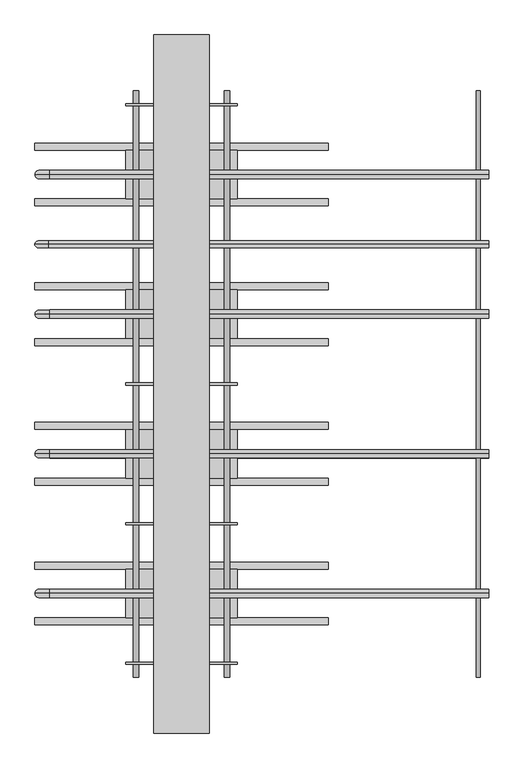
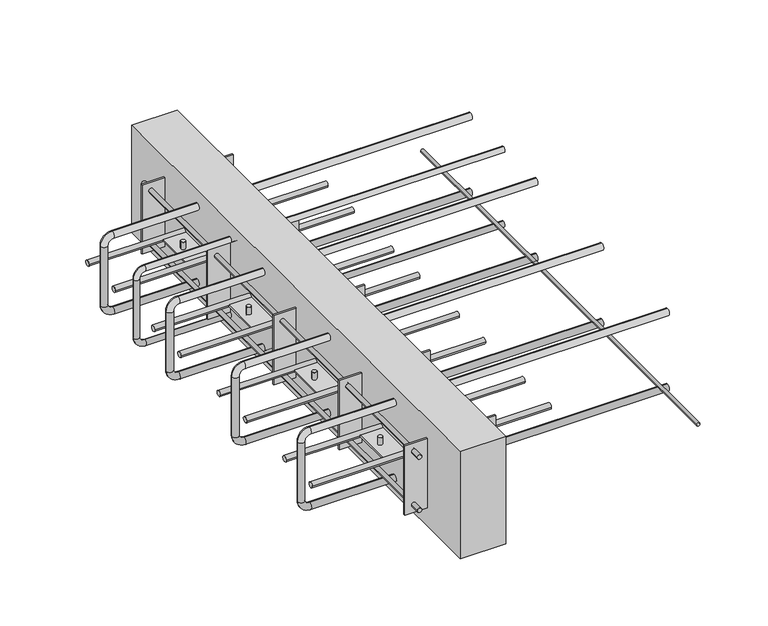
"""IFC4 building model written with IfcOpenShell, lengths in millimetres: proxy geometry, ACINOXplus_Typenreihe_Ux-Ox : UD+ S4."""

from ifc_helpers import new_model, si_unit, point, frame, frame_2d, origin, place, context, project, spatial, polyline, circle_curve, ellipse_curve, trimmed, segment, composite_curve, outline, extrude, source, transform, mapped, element, save
from ifc_brep_helpers import plane_surface, cylinder_surface, revolved_surface, advanced_brep


def generic_models_1c21d9c5(model_context):
    return source(origin(), model_context, "Body", "SolidModel", [
        advanced_brep(
        [(440.0, 100.0, -23.5), (440.0, 100.0, -35.5), (-189.0, 100.0, -23.5), (-189.0, 100.0, -35.5), (-198.0, 100.0, -44.5), (-210.0, 100.0, -44.5), (-210.0, 100.0, -155.5), (-198.0, 100.0, -155.5), (-189.0, 100.0, -164.5), (-189.0, 100.0, -176.5), (440.0, 100.0, -176.5), (440.0, 100.0, -164.5)],
        [
            (0, 1, circle_curve(frame((440.0, 100.0, -29.5), z_axis=(1.0, 0.0, 0.0), x_axis=(0.0, 0.0, -1.0)), 6.0)),
            (1, 0, circle_curve(frame((440.0, 100.0, -29.5), z_axis=(1.0, 0.0, 0.0), x_axis=(0.0, 0.0, -1.0)), 6.0)),
            (0, 2),
            (2, 3, circle_curve(frame((-189.0, 100.0, -29.5), z_axis=(1.0, 0.0, 0.0), x_axis=(0.0, 0.0, -1.0)), 6.0)),
            (3, 1),
            (3, 2, circle_curve(frame((-189.0, 100.0, -29.5), z_axis=(1.0, 0.0, 0.0), x_axis=(0.0, 0.0, -1.0)), 6.0)),
            (4, 3, circle_curve(frame((-189.0, 100.0, -44.5), z_axis=(0.0, 1.0, 0.0), x_axis=(0.0, 0.0, 1.0)), 9.0)),
            (2, 5, circle_curve(frame((-189.0, 100.0, -44.5), z_axis=(0.0, -1.0, 0.0), x_axis=(0.0, 0.0, 1.0)), 21.0)),
            (5, 4, circle_curve(frame((-204.0, 100.0, -44.5), z_axis=(0.0, 0.0, 1.0), x_axis=(1.0, 0.0, 0.0)), 6.0)),
            (4, 5, circle_curve(frame((-204.0, 100.0, -44.5), z_axis=(0.0, 0.0, 1.0), x_axis=(1.0, 0.0, 0.0)), 6.0)),
            (5, 6),
            (6, 7, circle_curve(frame((-204.0, 100.0, -155.5), z_axis=(0.0, 0.0, 1.0), x_axis=(1.0, 0.0, 0.0)), 6.0)),
            (7, 4),
            (7, 6, circle_curve(frame((-204.0, 100.0, -155.5), z_axis=(0.0, 0.0, 1.0), x_axis=(1.0, 0.0, 0.0)), 6.0)),
            (8, 7, circle_curve(frame((-189.0, 100.0, -155.5), z_axis=(0.0, 1.0, 0.0), x_axis=(-1.0, 0.0, 0.0)), 9.0)),
            (6, 9, circle_curve(frame((-189.0, 100.0, -155.5), z_axis=(0.0, -1.0, 0.0), x_axis=(-1.0, 0.0, 0.0)), 21.0)),
            (9, 8, circle_curve(frame((-189.0, 100.0, -170.5), z_axis=(-1.0, 0.0, 0.0), x_axis=(0.0, 0.0, 1.0)), 6.0)),
            (8, 9, circle_curve(frame((-189.0, 100.0, -170.5), z_axis=(-1.0, 0.0, 0.0), x_axis=(0.0, 0.0, 1.0)), 6.0)),
            (10, 11, circle_curve(frame((440.0, 100.0, -170.5), z_axis=(1.0, 0.0, 0.0), x_axis=(0.0, 0.0, 1.0)), 6.0)),
            (11, 10, circle_curve(frame((440.0, 100.0, -170.5), z_axis=(1.0, 0.0, 0.0), x_axis=(0.0, 0.0, 1.0)), 6.0)),
            (9, 10),
            (11, 8),
        ],
        [
            plane_surface(frame((440.0, 100.0, -29.5), z_axis=(1.0, 0.0, 0.0), x_axis=(0.0, -1.0, 0.0))),
            cylinder_surface(frame((440.0, 100.0, -29.5), z_axis=(1.0, 0.0, 0.0), x_axis=(0.0, 0.0, -1.0)), 6.0),
            revolved_surface(trimmed(ellipse_curve(frame((-189.0, 100.0, -29.5), z_axis=(1.0, 0.0, 0.0), x_axis=(0.0, 0.0, -1.0)), 6.0, 6.0), [point((-189.0, 100.0, -23.5))], [point((-189.0, 100.0, -35.5))], True, "CARTESIAN"), (-189.0, 100.0, -44.5), (0.0, -1.0, 0.0)),
            revolved_surface(trimmed(ellipse_curve(frame((-189.0, 100.0, -29.5), z_axis=(1.0, 0.0, 0.0), x_axis=(0.0, 0.0, -1.0)), 6.0, 6.0), [point((-189.0, 100.0, -35.5))], [point((-189.0, 100.0, -23.5))], True, "CARTESIAN"), (-189.0, 100.0, -44.5), (0.0, -1.0, 0.0)),
            cylinder_surface(frame((-204.0, 100.0, -44.5), z_axis=(0.0, 0.0, 1.0), x_axis=(1.0, 0.0, 0.0)), 6.0),
            revolved_surface(trimmed(ellipse_curve(frame((-204.0, 100.0, -155.5), z_axis=(0.0, 0.0, 1.0), x_axis=(1.0, 0.0, 0.0)), 6.0, 6.0), [point((-210.0, 100.0, -155.5))], [point((-198.0, 100.0, -155.5))], True, "CARTESIAN"), (-189.0, 100.0, -155.5), (0.0, -1.0, 0.0)),
            revolved_surface(trimmed(ellipse_curve(frame((-204.0, 100.0, -155.5), z_axis=(0.0, 0.0, 1.0), x_axis=(1.0, 0.0, 0.0)), 6.0, 6.0), [point((-198.0, 100.0, -155.5))], [point((-210.0, 100.0, -155.5))], True, "CARTESIAN"), (-189.0, 100.0, -155.5), (0.0, -1.0, 0.0)),
            plane_surface(frame((440.0, 100.0, -170.5), z_axis=(1.0, 0.0, 0.0), x_axis=(0.0, -1.0, 0.0))),
            cylinder_surface(frame((-189.0, 100.0, -170.5), z_axis=(-1.0, 0.0, 0.0), x_axis=(0.0, 0.0, 1.0)), 6.0),
        ],
        [
            (0, [[1, 2]]),
            (1, [[-1, 3, 4, 5]]),
            (1, [[-2, -5, 6, -3]]),
            (2, [[7, -4, 8, 9]]),
            (3, [[-8, -6, -7, 10]]),
            (4, [[-9, 11, 12, 13]]),
            (4, [[-10, -13, 14, -11]]),
            (5, [[15, -12, 16, 17]]),
            (6, [[-16, -14, -15, 18]]),
            (7, [[19, 20]]),
            (8, [[-17, 21, -20, 22]]),
            (8, [[-18, -22, -19, -21]]),
        ],
    ),
        advanced_brep(
        [(440.0, -100.0, -23.5), (440.0, -100.0, -35.5), (-189.0, -100.0, -23.5), (-189.0, -100.0, -35.5), (-198.0, -100.0, -44.5), (-210.0, -100.0, -44.5), (-210.0, -100.0, -155.5), (-198.0, -100.0, -155.5), (-189.0, -100.0, -164.5), (-189.0, -100.0, -176.5), (440.0, -100.0, -176.5), (440.0, -100.0, -164.5)],
        [
            (0, 1, circle_curve(frame((440.0, -100.0, -29.5), z_axis=(1.0, 0.0, 0.0), x_axis=(0.0, 0.0, -1.0)), 6.0)),
            (1, 0, circle_curve(frame((440.0, -100.0, -29.5), z_axis=(1.0, 0.0, 0.0), x_axis=(0.0, 0.0, -1.0)), 6.0)),
            (0, 2),
            (2, 3, circle_curve(frame((-189.0, -100.0, -29.5), z_axis=(1.0, 0.0, 0.0), x_axis=(0.0, 0.0, -1.0)), 6.0)),
            (3, 1),
            (3, 2, circle_curve(frame((-189.0, -100.0, -29.5), z_axis=(1.0, 0.0, 0.0), x_axis=(0.0, 0.0, -1.0)), 6.0)),
            (4, 3, circle_curve(frame((-189.0, -100.0, -44.5), z_axis=(0.0, 1.0, 0.0), x_axis=(0.0, 0.0, 1.0)), 9.0)),
            (2, 5, circle_curve(frame((-189.0, -100.0, -44.5), z_axis=(0.0, -1.0, 0.0), x_axis=(0.0, 0.0, 1.0)), 21.0)),
            (5, 4, circle_curve(frame((-204.0, -100.0, -44.5), z_axis=(0.0, 0.0, 1.0), x_axis=(1.0, 0.0, 0.0)), 6.0)),
            (4, 5, circle_curve(frame((-204.0, -100.0, -44.5), z_axis=(0.0, 0.0, 1.0), x_axis=(1.0, 0.0, 0.0)), 6.0)),
            (5, 6),
            (6, 7, circle_curve(frame((-204.0, -100.0, -155.5), z_axis=(0.0, 0.0, 1.0), x_axis=(1.0, 0.0, 0.0)), 6.0)),
            (7, 4),
            (7, 6, circle_curve(frame((-204.0, -100.0, -155.5), z_axis=(0.0, 0.0, 1.0), x_axis=(1.0, 0.0, 0.0)), 6.0)),
            (8, 7, circle_curve(frame((-189.0, -100.0, -155.5), z_axis=(0.0, 1.0, 0.0), x_axis=(-1.0, 0.0, 0.0)), 9.0)),
            (6, 9, circle_curve(frame((-189.0, -100.0, -155.5), z_axis=(0.0, -1.0, 0.0), x_axis=(-1.0, 0.0, 0.0)), 21.0)),
            (9, 8, circle_curve(frame((-189.0, -100.0, -170.5), z_axis=(-1.0, 0.0, 0.0), x_axis=(0.0, 0.0, 1.0)), 6.0)),
            (8, 9, circle_curve(frame((-189.0, -100.0, -170.5), z_axis=(-1.0, 0.0, 0.0), x_axis=(0.0, 0.0, 1.0)), 6.0)),
            (10, 11, circle_curve(frame((440.0, -100.0, -170.5), z_axis=(1.0, 0.0, 0.0), x_axis=(0.0, 0.0, 1.0)), 6.0)),
            (11, 10, circle_curve(frame((440.0, -100.0, -170.5), z_axis=(1.0, 0.0, 0.0), x_axis=(0.0, 0.0, 1.0)), 6.0)),
            (9, 10),
            (11, 8),
        ],
        [
            plane_surface(frame((440.0, -100.0, -29.5), z_axis=(1.0, 0.0, 0.0), x_axis=(0.0, -1.0, 0.0))),
            cylinder_surface(frame((440.0, -100.0, -29.5), z_axis=(1.0, 0.0, 0.0), x_axis=(0.0, 0.0, -1.0)), 6.0),
            revolved_surface(trimmed(ellipse_curve(frame((-189.0, -100.0, -29.5), z_axis=(1.0, 0.0, 0.0), x_axis=(0.0, 0.0, -1.0)), 6.0, 6.0), [point((-189.0, -100.0, -23.5))], [point((-189.0, -100.0, -35.5))], True, "CARTESIAN"), (-189.0, -100.0, -44.5), (0.0, -1.0, 0.0)),
            revolved_surface(trimmed(ellipse_curve(frame((-189.0, -100.0, -29.5), z_axis=(1.0, 0.0, 0.0), x_axis=(0.0, 0.0, -1.0)), 6.0, 6.0), [point((-189.0, -100.0, -35.5))], [point((-189.0, -100.0, -23.5))], True, "CARTESIAN"), (-189.0, -100.0, -44.5), (0.0, -1.0, 0.0)),
            cylinder_surface(frame((-204.0, -100.0, -44.5), z_axis=(0.0, 0.0, 1.0), x_axis=(1.0, 0.0, 0.0)), 6.0),
            revolved_surface(trimmed(ellipse_curve(frame((-204.0, -100.0, -155.5), z_axis=(0.0, 0.0, 1.0), x_axis=(1.0, 0.0, 0.0)), 6.0, 6.0), [point((-210.0, -100.0, -155.5))], [point((-198.0, -100.0, -155.5))], True, "CARTESIAN"), (-189.0, -100.0, -155.5), (0.0, -1.0, 0.0)),
            revolved_surface(trimmed(ellipse_curve(frame((-204.0, -100.0, -155.5), z_axis=(0.0, 0.0, 1.0), x_axis=(1.0, 0.0, 0.0)), 6.0, 6.0), [point((-198.0, -100.0, -155.5))], [point((-210.0, -100.0, -155.5))], True, "CARTESIAN"), (-189.0, -100.0, -155.5), (0.0, -1.0, 0.0)),
            plane_surface(frame((440.0, -100.0, -170.5), z_axis=(1.0, 0.0, 0.0), x_axis=(0.0, -1.0, 0.0))),
            cylinder_surface(frame((-189.0, -100.0, -170.5), z_axis=(-1.0, 0.0, 0.0), x_axis=(0.0, 0.0, 1.0)), 6.0),
        ],
        [
            (0, [[1, 2]]),
            (1, [[-1, 3, 4, 5]]),
            (1, [[-2, -5, 6, -3]]),
            (2, [[7, -4, 8, 9]]),
            (3, [[-8, -6, -7, 10]]),
            (4, [[-9, 11, 12, 13]]),
            (4, [[-10, -13, 14, -11]]),
            (5, [[15, -12, 16, 17]]),
            (6, [[-16, -14, -15, 18]]),
            (7, [[19, 20]]),
            (8, [[-17, 21, -20, 22]]),
            (8, [[-18, -22, -19, -21]]),
        ],
    ),
        advanced_brep(
        [(440.0, 300.0, -23.5), (440.0, 300.0, -35.5), (-189.0, 300.0, -23.5), (-189.0, 300.0, -35.5), (-198.0, 300.0, -44.5), (-210.0, 300.0, -44.5), (-210.0, 300.0, -155.5), (-198.0, 300.0, -155.5), (-189.0, 300.0, -164.5), (-189.0, 300.0, -176.5), (440.0, 300.0, -176.5), (440.0, 300.0, -164.5)],
        [
            (0, 1, circle_curve(frame((440.0, 300.0, -29.5), z_axis=(1.0, 0.0, 0.0), x_axis=(0.0, 0.0, -1.0)), 6.0)),
            (1, 0, circle_curve(frame((440.0, 300.0, -29.5), z_axis=(1.0, 0.0, 0.0), x_axis=(0.0, 0.0, -1.0)), 6.0)),
            (0, 2),
            (2, 3, circle_curve(frame((-189.0, 300.0, -29.5), z_axis=(1.0, 0.0, 0.0), x_axis=(0.0, 0.0, -1.0)), 6.0)),
            (3, 1),
            (3, 2, circle_curve(frame((-189.0, 300.0, -29.5), z_axis=(1.0, 0.0, 0.0), x_axis=(0.0, 0.0, -1.0)), 6.0)),
            (4, 3, circle_curve(frame((-189.0, 300.0, -44.5), z_axis=(0.0, 1.0, 0.0), x_axis=(0.0, 0.0, 1.0)), 9.0)),
            (2, 5, circle_curve(frame((-189.0, 300.0, -44.5), z_axis=(0.0, -1.0, 0.0), x_axis=(0.0, 0.0, 1.0)), 21.0)),
            (5, 4, circle_curve(frame((-204.0, 300.0, -44.5), z_axis=(0.0, 0.0, 1.0), x_axis=(1.0, 0.0, 0.0)), 6.0)),
            (4, 5, circle_curve(frame((-204.0, 300.0, -44.5), z_axis=(0.0, 0.0, 1.0), x_axis=(1.0, 0.0, 0.0)), 6.0)),
            (5, 6),
            (6, 7, circle_curve(frame((-204.0, 300.0, -155.5), z_axis=(0.0, 0.0, 1.0), x_axis=(1.0, 0.0, 0.0)), 6.0)),
            (7, 4),
            (7, 6, circle_curve(frame((-204.0, 300.0, -155.5), z_axis=(0.0, 0.0, 1.0), x_axis=(1.0, 0.0, 0.0)), 6.0)),
            (8, 7, circle_curve(frame((-189.0, 300.0, -155.5), z_axis=(0.0, 1.0, 0.0), x_axis=(-1.0, 0.0, 0.0)), 9.0)),
            (6, 9, circle_curve(frame((-189.0, 300.0, -155.5), z_axis=(0.0, -1.0, 0.0), x_axis=(-1.0, 0.0, 0.0)), 21.0)),
            (9, 8, circle_curve(frame((-189.0, 300.0, -170.5), z_axis=(-1.0, 0.0, 0.0), x_axis=(0.0, 0.0, 1.0)), 6.0)),
            (8, 9, circle_curve(frame((-189.0, 300.0, -170.5), z_axis=(-1.0, 0.0, 0.0), x_axis=(0.0, 0.0, 1.0)), 6.0)),
            (10, 11, circle_curve(frame((440.0, 300.0, -170.5), z_axis=(1.0, 0.0, 0.0), x_axis=(0.0, 0.0, 1.0)), 6.0)),
            (11, 10, circle_curve(frame((440.0, 300.0, -170.5), z_axis=(1.0, 0.0, 0.0), x_axis=(0.0, 0.0, 1.0)), 6.0)),
            (9, 10),
            (11, 8),
        ],
        [
            plane_surface(frame((440.0, 300.0, -29.5), z_axis=(1.0, 0.0, 0.0), x_axis=(0.0, -1.0, 0.0))),
            cylinder_surface(frame((440.0, 300.0, -29.5), z_axis=(1.0, 0.0, 0.0), x_axis=(0.0, 0.0, -1.0)), 6.0),
            revolved_surface(trimmed(ellipse_curve(frame((-189.0, 300.0, -29.5), z_axis=(1.0, 0.0, 0.0), x_axis=(0.0, 0.0, -1.0)), 6.0, 6.0), [point((-189.0, 300.0, -23.5))], [point((-189.0, 300.0, -35.5))], True, "CARTESIAN"), (-189.0, 300.0, -44.5), (0.0, -1.0, 0.0)),
            revolved_surface(trimmed(ellipse_curve(frame((-189.0, 300.0, -29.5), z_axis=(1.0, 0.0, 0.0), x_axis=(0.0, 0.0, -1.0)), 6.0, 6.0), [point((-189.0, 300.0, -35.5))], [point((-189.0, 300.0, -23.5))], True, "CARTESIAN"), (-189.0, 300.0, -44.5), (0.0, -1.0, 0.0)),
            cylinder_surface(frame((-204.0, 300.0, -44.5), z_axis=(0.0, 0.0, 1.0), x_axis=(1.0, 0.0, 0.0)), 6.0),
            revolved_surface(trimmed(ellipse_curve(frame((-204.0, 300.0, -155.5), z_axis=(0.0, 0.0, 1.0), x_axis=(1.0, 0.0, 0.0)), 6.0, 6.0), [point((-210.0, 300.0, -155.5))], [point((-198.0, 300.0, -155.5))], True, "CARTESIAN"), (-189.0, 300.0, -155.5), (0.0, -1.0, 0.0)),
            revolved_surface(trimmed(ellipse_curve(frame((-204.0, 300.0, -155.5), z_axis=(0.0, 0.0, 1.0), x_axis=(1.0, 0.0, 0.0)), 6.0, 6.0), [point((-198.0, 300.0, -155.5))], [point((-210.0, 300.0, -155.5))], True, "CARTESIAN"), (-189.0, 300.0, -155.5), (0.0, -1.0, 0.0)),
            plane_surface(frame((440.0, 300.0, -170.5), z_axis=(1.0, 0.0, 0.0), x_axis=(0.0, -1.0, 0.0))),
            cylinder_surface(frame((-189.0, 300.0, -170.5), z_axis=(-1.0, 0.0, 0.0), x_axis=(0.0, 0.0, 1.0)), 6.0),
        ],
        [
            (0, [[1, 2]]),
            (1, [[-1, 3, 4, 5]]),
            (1, [[-2, -5, 6, -3]]),
            (2, [[7, -4, 8, 9]]),
            (3, [[-8, -6, -7, 10]]),
            (4, [[-9, 11, 12, 13]]),
            (4, [[-10, -13, 14, -11]]),
            (5, [[15, -12, 16, 17]]),
            (6, [[-16, -14, -15, 18]]),
            (7, [[19, 20]]),
            (8, [[-17, 21, -20, 22]]),
            (8, [[-18, -22, -19, -21]]),
        ],
    ),
        advanced_brep(
        [(440.0, -300.0, -23.5), (440.0, -300.0, -35.5), (-189.0, -300.0, -23.5), (-189.0, -300.0, -35.5), (-198.0, -300.0, -44.5), (-210.0, -300.0, -44.5), (-210.0, -300.0, -155.5), (-198.0, -300.0, -155.5), (-189.0, -300.0, -164.5), (-189.0, -300.0, -176.5), (440.0, -300.0, -176.5), (440.0, -300.0, -164.5)],
        [
            (0, 1, circle_curve(frame((440.0, -300.0, -29.5), z_axis=(1.0, 0.0, 0.0), x_axis=(0.0, 0.0, -1.0)), 6.0)),
            (1, 0, circle_curve(frame((440.0, -300.0, -29.5), z_axis=(1.0, 0.0, 0.0), x_axis=(0.0, 0.0, -1.0)), 6.0)),
            (0, 2),
            (2, 3, circle_curve(frame((-189.0, -300.0, -29.5), z_axis=(1.0, 0.0, 0.0), x_axis=(0.0, 0.0, -1.0)), 6.0)),
            (3, 1),
            (3, 2, circle_curve(frame((-189.0, -300.0, -29.5), z_axis=(1.0, 0.0, 0.0), x_axis=(0.0, 0.0, -1.0)), 6.0)),
            (4, 3, circle_curve(frame((-189.0, -300.0, -44.5), z_axis=(0.0, 1.0, 0.0), x_axis=(0.0, 0.0, 1.0)), 9.0)),
            (2, 5, circle_curve(frame((-189.0, -300.0, -44.5), z_axis=(0.0, -1.0, 0.0), x_axis=(0.0, 0.0, 1.0)), 21.0)),
            (5, 4, circle_curve(frame((-204.0, -300.0, -44.5), z_axis=(0.0, 0.0, 1.0), x_axis=(1.0, 0.0, 0.0)), 6.0)),
            (4, 5, circle_curve(frame((-204.0, -300.0, -44.5), z_axis=(0.0, 0.0, 1.0), x_axis=(1.0, 0.0, 0.0)), 6.0)),
            (5, 6),
            (6, 7, circle_curve(frame((-204.0, -300.0, -155.5), z_axis=(0.0, 0.0, 1.0), x_axis=(1.0, 0.0, 0.0)), 6.0)),
            (7, 4),
            (7, 6, circle_curve(frame((-204.0, -300.0, -155.5), z_axis=(0.0, 0.0, 1.0), x_axis=(1.0, 0.0, 0.0)), 6.0)),
            (8, 7, circle_curve(frame((-189.0, -300.0, -155.5), z_axis=(0.0, 1.0, 0.0), x_axis=(-1.0, 0.0, 0.0)), 9.0)),
            (6, 9, circle_curve(frame((-189.0, -300.0, -155.5), z_axis=(0.0, -1.0, 0.0), x_axis=(-1.0, 0.0, 0.0)), 21.0)),
            (9, 8, circle_curve(frame((-189.0, -300.0, -170.5), z_axis=(-1.0, 0.0, 0.0), x_axis=(0.0, 0.0, 1.0)), 6.0)),
            (8, 9, circle_curve(frame((-189.0, -300.0, -170.5), z_axis=(-1.0, 0.0, 0.0), x_axis=(0.0, 0.0, 1.0)), 6.0)),
            (10, 11, circle_curve(frame((440.0, -300.0, -170.5), z_axis=(1.0, 0.0, 0.0), x_axis=(0.0, 0.0, 1.0)), 6.0)),
            (11, 10, circle_curve(frame((440.0, -300.0, -170.5), z_axis=(1.0, 0.0, 0.0), x_axis=(0.0, 0.0, 1.0)), 6.0)),
            (9, 10),
            (11, 8),
        ],
        [
            plane_surface(frame((440.0, -300.0, -29.5), z_axis=(1.0, 0.0, 0.0), x_axis=(0.0, -1.0, 0.0))),
            cylinder_surface(frame((440.0, -300.0, -29.5), z_axis=(1.0, 0.0, 0.0), x_axis=(0.0, 0.0, -1.0)), 6.0),
            revolved_surface(trimmed(ellipse_curve(frame((-189.0, -300.0, -29.5), z_axis=(1.0, 0.0, 0.0), x_axis=(0.0, 0.0, -1.0)), 6.0, 6.0), [point((-189.0, -300.0, -23.5))], [point((-189.0, -300.0, -35.5))], True, "CARTESIAN"), (-189.0, -300.0, -44.5), (0.0, -1.0, 0.0)),
            revolved_surface(trimmed(ellipse_curve(frame((-189.0, -300.0, -29.5), z_axis=(1.0, 0.0, 0.0), x_axis=(0.0, 0.0, -1.0)), 6.0, 6.0), [point((-189.0, -300.0, -35.5))], [point((-189.0, -300.0, -23.5))], True, "CARTESIAN"), (-189.0, -300.0, -44.5), (0.0, -1.0, 0.0)),
            cylinder_surface(frame((-204.0, -300.0, -44.5), z_axis=(0.0, 0.0, 1.0), x_axis=(1.0, 0.0, 0.0)), 6.0),
            revolved_surface(trimmed(ellipse_curve(frame((-204.0, -300.0, -155.5), z_axis=(0.0, 0.0, 1.0), x_axis=(1.0, 0.0, 0.0)), 6.0, 6.0), [point((-210.0, -300.0, -155.5))], [point((-198.0, -300.0, -155.5))], True, "CARTESIAN"), (-189.0, -300.0, -155.5), (0.0, -1.0, 0.0)),
            revolved_surface(trimmed(ellipse_curve(frame((-204.0, -300.0, -155.5), z_axis=(0.0, 0.0, 1.0), x_axis=(1.0, 0.0, 0.0)), 6.0, 6.0), [point((-198.0, -300.0, -155.5))], [point((-210.0, -300.0, -155.5))], True, "CARTESIAN"), (-189.0, -300.0, -155.5), (0.0, -1.0, 0.0)),
            plane_surface(frame((440.0, -300.0, -170.5), z_axis=(1.0, 0.0, 0.0), x_axis=(0.0, -1.0, 0.0))),
            cylinder_surface(frame((-189.0, -300.0, -170.5), z_axis=(-1.0, 0.0, 0.0), x_axis=(0.0, 0.0, 1.0)), 6.0),
        ],
        [
            (0, [[1, 2]]),
            (1, [[-1, 3, 4, 5]]),
            (1, [[-2, -5, 6, -3]]),
            (2, [[7, -4, 8, 9]]),
            (3, [[-8, -6, -7, 10]]),
            (4, [[-9, 11, 12, 13]]),
            (4, [[-10, -13, 14, -11]]),
            (5, [[15, -12, 16, 17]]),
            (6, [[-16, -14, -15, 18]]),
            (7, [[19, 20]]),
            (8, [[-17, 21, -20, 22]]),
            (8, [[-18, -22, -19, -21]]),
        ],
    ),
        extrude(outline(composite_curve([segment(trimmed(circle_curve(frame_2d((-161.5, 425.0)), 3.0), [point((-161.5, 428.0))], [point((-161.5, 422.0))], False, "CARTESIAN"), True, "CONTINUOUS"), segment(trimmed(circle_curve(frame_2d((-161.5, 425.0)), 3.0), [point((-161.5, 422.0))], [point((-161.5, 428.0))], False, "CARTESIAN"), True, "CONTINUOUS")], self_intersect=False)), frame((0.0, -420.0, 0.0), z_axis=(0.0, 1.0, 0.0), x_axis=(0.0, 0.0, 1.0)), (0.0, 0.0, 1.0), 840.0),
        extrude(outline(composite_curve([segment(trimmed(circle_curve(frame_2d((-340.0, -100.0)), 5.0), [point((-345.0, -100.0))], [point((-335.0, -100.0))], False, "CARTESIAN"), True, "CONTINUOUS"), segment(trimmed(circle_curve(frame_2d((-340.0, -100.0)), 5.0), [point((-335.0, -100.0))], [point((-345.0, -100.0))], False, "CARTESIAN"), True, "CONTINUOUS")], self_intersect=False)), frame((-210.0, 0.0, 0.0), z_axis=(1.0, 0.0, 0.0), x_axis=(0.0, 1.0, 0.0)), (0.0, 0.0, 1.0), 420.0),
        extrude(outline(composite_curve([segment(trimmed(circle_curve(frame_2d((-260.0, -100.0)), 5.0), [point((-265.0, -100.0))], [point((-255.0, -100.0))], False, "CARTESIAN"), True, "CONTINUOUS"), segment(trimmed(circle_curve(frame_2d((-260.0, -100.0)), 5.0), [point((-255.0, -100.0))], [point((-265.0, -100.0))], False, "CARTESIAN"), True, "CONTINUOUS")], self_intersect=False)), frame((-210.0, 0.0, 0.0), z_axis=(1.0, 0.0, 0.0), x_axis=(0.0, 1.0, 0.0)), (0.0, 0.0, 1.0), 420.0),
        extrude(outline(composite_curve([segment(trimmed(circle_curve(frame_2d((-65.0, -300.0)), 4.0), [point((-69.0, -300.0))], [point((-61.0, -300.0))], False, "CARTESIAN"), True, "CONTINUOUS"), segment(trimmed(circle_curve(frame_2d((-65.0, -300.0)), 4.0), [point((-61.0, -300.0))], [point((-69.0, -300.0))], False, "CARTESIAN"), True, "CONTINUOUS")], self_intersect=False)), frame((0.0, 0.0, -115.0), z_axis=(0.0, 0.0, 1.0), x_axis=(1.0, 0.0, 0.0)), (0.0, 0.0, 1.0), 13.5),
        extrude(outline(composite_curve([segment(trimmed(circle_curve(frame_2d((65.0, -300.0)), 4.0), [point((61.0, -300.0))], [point((69.0, -300.0))], False, "CARTESIAN"), True, "CONTINUOUS"), segment(trimmed(circle_curve(frame_2d((65.0, -300.0)), 4.0), [point((69.0, -300.0))], [point((61.0, -300.0))], False, "CARTESIAN"), True, "CONTINUOUS")], self_intersect=False)), frame((0.0, 0.0, -115.0), z_axis=(0.0, 0.0, 1.0), x_axis=(1.0, 0.0, 0.0)), (0.0, 0.0, 1.0), 13.5),
        extrude(outline(composite_curve([segment(trimmed(circle_curve(frame_2d((-65.0, -300.0)), 4.0), [point((-61.0, -300.0))], [point((-69.0, -300.0))], False, "CARTESIAN"), True, "CONTINUOUS"), segment(trimmed(circle_curve(frame_2d((-65.0, -300.0)), 4.0), [point((-69.0, -300.0))], [point((-61.0, -300.0))], False, "CARTESIAN"), True, "CONTINUOUS")], self_intersect=False)), frame((0.0, 0.0, -98.5), z_axis=(0.0, 0.0, 1.0), x_axis=(1.0, 0.0, 0.0)), (0.0, 0.0, 1.0), 13.5),
        extrude(outline(composite_curve([segment(trimmed(circle_curve(frame_2d((65.0, -300.0)), 4.0), [point((69.0, -300.0))], [point((61.0, -300.0))], False, "CARTESIAN"), True, "CONTINUOUS"), segment(trimmed(circle_curve(frame_2d((65.0, -300.0)), 4.0), [point((61.0, -300.0))], [point((69.0, -300.0))], False, "CARTESIAN"), True, "CONTINUOUS")], self_intersect=False)), frame((0.0, 0.0, -98.5), z_axis=(0.0, 0.0, 1.0), x_axis=(1.0, 0.0, 0.0)), (0.0, 0.0, 1.0), 13.5),
        extrude(outline(polyline([(80.0, -265.0), (80.0, -335.0), (-80.0, -335.0), (-80.0, -265.0), (80.0, -265.0)])), frame((0.0, 0.0, -101.5), z_axis=(0.0, 0.0, 1.0), x_axis=(1.0, 0.0, 0.0)), (0.0, 0.0, 1.0), 3.0),
        extrude(outline(composite_curve([segment(trimmed(circle_curve(frame_2d((260.0, -100.0)), 5.0), [point((255.0, -100.0))], [point((265.0, -100.0))], False, "CARTESIAN"), True, "CONTINUOUS"), segment(trimmed(circle_curve(frame_2d((260.0, -100.0)), 5.0), [point((265.0, -100.0))], [point((255.0, -100.0))], False, "CARTESIAN"), True, "CONTINUOUS")], self_intersect=False)), frame((-210.0, 0.0, 0.0), z_axis=(1.0, 0.0, 0.0), x_axis=(0.0, 1.0, 0.0)), (0.0, 0.0, 1.0), 420.0),
        extrude(outline(composite_curve([segment(trimmed(circle_curve(frame_2d((340.0, -100.0)), 5.0), [point((335.0, -100.0))], [point((345.0, -100.0))], False, "CARTESIAN"), True, "CONTINUOUS"), segment(trimmed(circle_curve(frame_2d((340.0, -100.0)), 5.0), [point((345.0, -100.0))], [point((335.0, -100.0))], False, "CARTESIAN"), True, "CONTINUOUS")], self_intersect=False)), frame((-210.0, 0.0, 0.0), z_axis=(1.0, 0.0, 0.0), x_axis=(0.0, 1.0, 0.0)), (0.0, 0.0, 1.0), 420.0),
        extrude(outline(composite_curve([segment(trimmed(circle_curve(frame_2d((-65.0, 300.0)), 4.0), [point((-69.0, 300.0))], [point((-61.0, 300.0))], False, "CARTESIAN"), True, "CONTINUOUS"), segment(trimmed(circle_curve(frame_2d((-65.0, 300.0)), 4.0), [point((-61.0, 300.0))], [point((-69.0, 300.0))], False, "CARTESIAN"), True, "CONTINUOUS")], self_intersect=False)), frame((0.0, 0.0, -115.0), z_axis=(0.0, 0.0, 1.0), x_axis=(1.0, 0.0, 0.0)), (0.0, 0.0, 1.0), 13.5),
        extrude(outline(composite_curve([segment(trimmed(circle_curve(frame_2d((65.0, 300.0)), 4.0), [point((61.0, 300.0))], [point((69.0, 300.0))], False, "CARTESIAN"), True, "CONTINUOUS"), segment(trimmed(circle_curve(frame_2d((65.0, 300.0)), 4.0), [point((69.0, 300.0))], [point((61.0, 300.0))], False, "CARTESIAN"), True, "CONTINUOUS")], self_intersect=False)), frame((0.0, 0.0, -115.0), z_axis=(0.0, 0.0, 1.0), x_axis=(1.0, 0.0, 0.0)), (0.0, 0.0, 1.0), 13.5),
        extrude(outline(composite_curve([segment(trimmed(circle_curve(frame_2d((-65.0, 300.0)), 4.0), [point((-61.0, 300.0))], [point((-69.0, 300.0))], False, "CARTESIAN"), True, "CONTINUOUS"), segment(trimmed(circle_curve(frame_2d((-65.0, 300.0)), 4.0), [point((-69.0, 300.0))], [point((-61.0, 300.0))], False, "CARTESIAN"), True, "CONTINUOUS")], self_intersect=False)), frame((0.0, 0.0, -98.5), z_axis=(0.0, 0.0, 1.0), x_axis=(1.0, 0.0, 0.0)), (0.0, 0.0, 1.0), 13.5),
        extrude(outline(composite_curve([segment(trimmed(circle_curve(frame_2d((65.0, 300.0)), 4.0), [point((69.0, 300.0))], [point((61.0, 300.0))], False, "CARTESIAN"), True, "CONTINUOUS"), segment(trimmed(circle_curve(frame_2d((65.0, 300.0)), 4.0), [point((61.0, 300.0))], [point((69.0, 300.0))], False, "CARTESIAN"), True, "CONTINUOUS")], self_intersect=False)), frame((0.0, 0.0, -98.5), z_axis=(0.0, 0.0, 1.0), x_axis=(1.0, 0.0, 0.0)), (0.0, 0.0, 1.0), 13.5),
        extrude(outline(polyline([(80.0, 335.0), (80.0, 265.0), (-80.0, 265.0), (-80.0, 335.0), (80.0, 335.0)])), frame((0.0, 0.0, -101.5), z_axis=(0.0, 0.0, 1.0), x_axis=(1.0, 0.0, 0.0)), (0.0, 0.0, 1.0), 3.0),
        extrude(outline(composite_curve([segment(trimmed(circle_curve(frame_2d((-140.0, -100.0)), 5.0), [point((-145.0, -100.0))], [point((-135.0, -100.0))], False, "CARTESIAN"), True, "CONTINUOUS"), segment(trimmed(circle_curve(frame_2d((-140.0, -100.0)), 5.0), [point((-135.0, -100.0))], [point((-145.0, -100.0))], False, "CARTESIAN"), True, "CONTINUOUS")], self_intersect=False)), frame((-210.0, 0.0, 0.0), z_axis=(1.0, 0.0, 0.0), x_axis=(0.0, 1.0, 0.0)), (0.0, 0.0, 1.0), 420.0),
        extrude(outline(composite_curve([segment(trimmed(circle_curve(frame_2d((-60.0, -100.0)), 5.0), [point((-65.0, -100.0))], [point((-55.0, -100.0))], False, "CARTESIAN"), True, "CONTINUOUS"), segment(trimmed(circle_curve(frame_2d((-60.0, -100.0)), 5.0), [point((-55.0, -100.0))], [point((-65.0, -100.0))], False, "CARTESIAN"), True, "CONTINUOUS")], self_intersect=False)), frame((-210.0, 0.0, 0.0), z_axis=(1.0, 0.0, 0.0), x_axis=(0.0, 1.0, 0.0)), (0.0, 0.0, 1.0), 420.0),
        extrude(outline(composite_curve([segment(trimmed(circle_curve(frame_2d((-65.0, -100.0)), 4.0), [point((-69.0, -100.0))], [point((-61.0, -100.0))], False, "CARTESIAN"), True, "CONTINUOUS"), segment(trimmed(circle_curve(frame_2d((-65.0, -100.0)), 4.0), [point((-61.0, -100.0))], [point((-69.0, -100.0))], False, "CARTESIAN"), True, "CONTINUOUS")], self_intersect=False)), frame((0.0, 0.0, -115.0), z_axis=(0.0, 0.0, 1.0), x_axis=(1.0, 0.0, 0.0)), (0.0, 0.0, 1.0), 13.5),
        extrude(outline(composite_curve([segment(trimmed(circle_curve(frame_2d((65.0, -100.0)), 4.0), [point((61.0, -100.0))], [point((69.0, -100.0))], False, "CARTESIAN"), True, "CONTINUOUS"), segment(trimmed(circle_curve(frame_2d((65.0, -100.0)), 4.0), [point((69.0, -100.0))], [point((61.0, -100.0))], False, "CARTESIAN"), True, "CONTINUOUS")], self_intersect=False)), frame((0.0, 0.0, -115.0), z_axis=(0.0, 0.0, 1.0), x_axis=(1.0, 0.0, 0.0)), (0.0, 0.0, 1.0), 13.5),
        extrude(outline(composite_curve([segment(trimmed(circle_curve(frame_2d((-65.0, -100.0)), 4.0), [point((-61.0, -100.0))], [point((-69.0, -100.0))], False, "CARTESIAN"), True, "CONTINUOUS"), segment(trimmed(circle_curve(frame_2d((-65.0, -100.0)), 4.0), [point((-69.0, -100.0))], [point((-61.0, -100.0))], False, "CARTESIAN"), True, "CONTINUOUS")], self_intersect=False)), frame((0.0, 0.0, -98.5), z_axis=(0.0, 0.0, 1.0), x_axis=(1.0, 0.0, 0.0)), (0.0, 0.0, 1.0), 13.5),
        extrude(outline(composite_curve([segment(trimmed(circle_curve(frame_2d((65.0, -100.0)), 4.0), [point((69.0, -100.0))], [point((61.0, -100.0))], False, "CARTESIAN"), True, "CONTINUOUS"), segment(trimmed(circle_curve(frame_2d((65.0, -100.0)), 4.0), [point((61.0, -100.0))], [point((69.0, -100.0))], False, "CARTESIAN"), True, "CONTINUOUS")], self_intersect=False)), frame((0.0, 0.0, -98.5), z_axis=(0.0, 0.0, 1.0), x_axis=(1.0, 0.0, 0.0)), (0.0, 0.0, 1.0), 13.5),
        extrude(outline(polyline([(80.0, -65.0), (80.0, -135.0), (-80.0, -135.0), (-80.0, -65.0), (80.0, -65.0)])), frame((0.0, 0.0, -101.5), z_axis=(0.0, 0.0, 1.0), x_axis=(1.0, 0.0, 0.0)), (0.0, 0.0, 1.0), 3.0),
        extrude(outline(composite_curve([segment(trimmed(circle_curve(frame_2d((60.0, -100.0)), 5.0), [point((55.0, -100.0))], [point((65.0, -100.0))], False, "CARTESIAN"), True, "CONTINUOUS"), segment(trimmed(circle_curve(frame_2d((60.0, -100.0)), 5.0), [point((65.0, -100.0))], [point((55.0, -100.0))], False, "CARTESIAN"), True, "CONTINUOUS")], self_intersect=False)), frame((-210.0, 0.0, 0.0), z_axis=(1.0, 0.0, 0.0), x_axis=(0.0, 1.0, 0.0)), (0.0, 0.0, 1.0), 420.0),
        extrude(outline(composite_curve([segment(trimmed(circle_curve(frame_2d((140.0, -100.0)), 5.0), [point((135.0, -100.0))], [point((145.0, -100.0))], False, "CARTESIAN"), True, "CONTINUOUS"), segment(trimmed(circle_curve(frame_2d((140.0, -100.0)), 5.0), [point((145.0, -100.0))], [point((135.0, -100.0))], False, "CARTESIAN"), True, "CONTINUOUS")], self_intersect=False)), frame((-210.0, 0.0, 0.0), z_axis=(1.0, 0.0, 0.0), x_axis=(0.0, 1.0, 0.0)), (0.0, 0.0, 1.0), 420.0),
        extrude(outline(composite_curve([segment(trimmed(circle_curve(frame_2d((-65.0, 100.0)), 4.0), [point((-69.0, 100.0))], [point((-61.0, 100.0))], False, "CARTESIAN"), True, "CONTINUOUS"), segment(trimmed(circle_curve(frame_2d((-65.0, 100.0)), 4.0), [point((-61.0, 100.0))], [point((-69.0, 100.0))], False, "CARTESIAN"), True, "CONTINUOUS")], self_intersect=False)), frame((0.0, 0.0, -115.0), z_axis=(0.0, 0.0, 1.0), x_axis=(1.0, 0.0, 0.0)), (0.0, 0.0, 1.0), 13.5),
        extrude(outline(composite_curve([segment(trimmed(circle_curve(frame_2d((65.0, 100.0)), 4.0), [point((61.0, 100.0))], [point((69.0, 100.0))], False, "CARTESIAN"), True, "CONTINUOUS"), segment(trimmed(circle_curve(frame_2d((65.0, 100.0)), 4.0), [point((69.0, 100.0))], [point((61.0, 100.0))], False, "CARTESIAN"), True, "CONTINUOUS")], self_intersect=False)), frame((0.0, 0.0, -115.0), z_axis=(0.0, 0.0, 1.0), x_axis=(1.0, 0.0, 0.0)), (0.0, 0.0, 1.0), 13.5),
        extrude(outline(composite_curve([segment(trimmed(circle_curve(frame_2d((-65.0, 100.0)), 4.0), [point((-61.0, 100.0))], [point((-69.0, 100.0))], False, "CARTESIAN"), True, "CONTINUOUS"), segment(trimmed(circle_curve(frame_2d((-65.0, 100.0)), 4.0), [point((-69.0, 100.0))], [point((-61.0, 100.0))], False, "CARTESIAN"), True, "CONTINUOUS")], self_intersect=False)), frame((0.0, 0.0, -98.5), z_axis=(0.0, 0.0, 1.0), x_axis=(1.0, 0.0, 0.0)), (0.0, 0.0, 1.0), 13.5),
        extrude(outline(composite_curve([segment(trimmed(circle_curve(frame_2d((65.0, 100.0)), 4.0), [point((69.0, 100.0))], [point((61.0, 100.0))], False, "CARTESIAN"), True, "CONTINUOUS"), segment(trimmed(circle_curve(frame_2d((65.0, 100.0)), 4.0), [point((61.0, 100.0))], [point((69.0, 100.0))], False, "CARTESIAN"), True, "CONTINUOUS")], self_intersect=False)), frame((0.0, 0.0, -98.5), z_axis=(0.0, 0.0, 1.0), x_axis=(1.0, 0.0, 0.0)), (0.0, 0.0, 1.0), 13.5),
        extrude(outline(polyline([(80.0, 135.0), (80.0, 65.0), (-80.0, 65.0), (-80.0, 135.0), (80.0, 135.0)])), frame((0.0, 0.0, -101.5), z_axis=(0.0, 0.0, 1.0), x_axis=(1.0, 0.0, 0.0)), (0.0, 0.0, 1.0), 3.0),
        extrude(outline(polyline([(40.0, 500.0), (40.0, -500.0), (-40.0, -500.0), (-40.0, 500.0), (40.0, 500.0)])), frame((0.0, 0.0, -200.0), z_axis=(0.0, 0.0, 1.0), x_axis=(1.0, 0.0, 0.0)), (0.0, 0.0, 1.0), 200.0),
        extrude(outline(polyline([(80.0, -198.5), (80.0, -201.5), (-80.0, -201.5), (-80.0, -198.5), (80.0, -198.5)])), frame((0.0, 0.0, -164.5), z_axis=(0.0, 0.0, 1.0), x_axis=(1.0, 0.0, 0.0)), (0.0, 0.0, 1.0), 129.0),
        extrude(outline(polyline([(80.0, 1.5), (80.0, -1.5), (-80.0, -1.5), (-80.0, 1.5), (80.0, 1.5)])), frame((0.0, 0.0, -164.5), z_axis=(0.0, 0.0, 1.0), x_axis=(1.0, 0.0, 0.0)), (0.0, 0.0, 1.0), 129.0),
        extrude(outline(polyline([(80.0, 201.5), (80.0, 198.5), (-80.0, 198.5), (-80.0, 201.5), (80.0, 201.5)])), frame((0.0, 0.0, -164.5), z_axis=(0.0, 0.0, 1.0), x_axis=(1.0, 0.0, 0.0)), (0.0, 0.0, 1.0), 129.0),
        extrude(outline(polyline([(80.0, -398.5), (80.0, -401.5), (-80.0, -401.5), (-80.0, -398.5), (80.0, -398.5)])), frame((0.0, 0.0, -164.5), z_axis=(0.0, 0.0, 1.0), x_axis=(1.0, 0.0, 0.0)), (0.0, 0.0, 1.0), 129.0),
        extrude(outline(polyline([(80.0, 401.5), (80.0, 398.5), (-80.0, 398.5), (-80.0, 401.5), (80.0, 401.5)])), frame((0.0, 0.0, -164.5), z_axis=(0.0, 0.0, 1.0), x_axis=(1.0, 0.0, 0.0)), (0.0, 0.0, 1.0), 129.0),
        extrude(outline(composite_curve([segment(trimmed(circle_curve(frame_2d((-149.5, -65.0)), 4.0), [point((-149.5, -61.0))], [point((-149.5, -69.0))], False, "CARTESIAN"), True, "CONTINUOUS"), segment(trimmed(circle_curve(frame_2d((-149.5, -65.0)), 4.0), [point((-149.5, -69.0))], [point((-149.5, -61.0))], False, "CARTESIAN"), True, "CONTINUOUS")], self_intersect=False)), frame((0.0, -420.0, 0.0), z_axis=(0.0, 1.0, 0.0), x_axis=(0.0, 0.0, 1.0)), (0.0, 0.0, 1.0), 18.5),
        extrude(outline(composite_curve([segment(trimmed(circle_curve(frame_2d((-149.5, -65.0)), 4.0), [point((-149.5, -69.0))], [point((-149.5, -61.0))], False, "CARTESIAN"), True, "CONTINUOUS"), segment(trimmed(circle_curve(frame_2d((-149.5, -65.0)), 4.0), [point((-149.5, -61.0))], [point((-149.5, -69.0))], False, "CARTESIAN"), True, "CONTINUOUS")], self_intersect=False)), frame((0.0, -398.5, 0.0), z_axis=(0.0, 1.0, 0.0), x_axis=(0.0, 0.0, 1.0)), (0.0, 0.0, 1.0), 597.0),
        extrude(outline(composite_curve([segment(trimmed(circle_curve(frame_2d((-149.5, -65.0)), 4.0), [point((-149.5, -69.0))], [point((-149.5, -61.0))], False, "CARTESIAN"), True, "CONTINUOUS"), segment(trimmed(circle_curve(frame_2d((-149.5, -65.0)), 4.0), [point((-149.5, -61.0))], [point((-149.5, -69.0))], False, "CARTESIAN"), True, "CONTINUOUS")], self_intersect=False)), frame((0.0, 401.5, 0.0), z_axis=(0.0, 1.0, 0.0), x_axis=(0.0, 0.0, 1.0)), (0.0, 0.0, 1.0), 18.5),
        extrude(outline(composite_curve([segment(trimmed(circle_curve(frame_2d((-149.5, -65.0)), 4.0), [point((-149.5, -69.0))], [point((-149.5, -61.0))], False, "CARTESIAN"), True, "CONTINUOUS"), segment(trimmed(circle_curve(frame_2d((-149.5, -65.0)), 4.0), [point((-149.5, -61.0))], [point((-149.5, -69.0))], False, "CARTESIAN"), True, "CONTINUOUS")], self_intersect=False)), frame((0.0, 201.5, 0.0), z_axis=(0.0, 1.0, 0.0), x_axis=(0.0, 0.0, 1.0)), (0.0, 0.0, 1.0), 197.0),
        extrude(outline(composite_curve([segment(trimmed(circle_curve(frame_2d((-149.5, 65.0)), 4.0), [point((-149.5, 69.0))], [point((-149.5, 61.0))], False, "CARTESIAN"), True, "CONTINUOUS"), segment(trimmed(circle_curve(frame_2d((-149.5, 65.0)), 4.0), [point((-149.5, 61.0))], [point((-149.5, 69.0))], False, "CARTESIAN"), True, "CONTINUOUS")], self_intersect=False)), frame((0.0, -420.0, 0.0), z_axis=(0.0, 1.0, 0.0), x_axis=(0.0, 0.0, 1.0)), (0.0, 0.0, 1.0), 18.5),
        extrude(outline(composite_curve([segment(trimmed(circle_curve(frame_2d((-149.5, 65.0)), 4.0), [point((-149.5, 61.0))], [point((-149.5, 69.0))], False, "CARTESIAN"), True, "CONTINUOUS"), segment(trimmed(circle_curve(frame_2d((-149.5, 65.0)), 4.0), [point((-149.5, 69.0))], [point((-149.5, 61.0))], False, "CARTESIAN"), True, "CONTINUOUS")], self_intersect=False)), frame((0.0, -398.5, 0.0), z_axis=(0.0, 1.0, 0.0), x_axis=(0.0, 0.0, 1.0)), (0.0, 0.0, 1.0), 597.0),
        extrude(outline(composite_curve([segment(trimmed(circle_curve(frame_2d((-149.5, 65.0)), 4.0), [point((-149.5, 61.0))], [point((-149.5, 69.0))], False, "CARTESIAN"), True, "CONTINUOUS"), segment(trimmed(circle_curve(frame_2d((-149.5, 65.0)), 4.0), [point((-149.5, 69.0))], [point((-149.5, 61.0))], False, "CARTESIAN"), True, "CONTINUOUS")], self_intersect=False)), frame((0.0, 401.5, 0.0), z_axis=(0.0, 1.0, 0.0), x_axis=(0.0, 0.0, 1.0)), (0.0, 0.0, 1.0), 18.5),
        extrude(outline(composite_curve([segment(trimmed(circle_curve(frame_2d((-149.5, 65.0)), 4.0), [point((-149.5, 61.0))], [point((-149.5, 69.0))], False, "CARTESIAN"), True, "CONTINUOUS"), segment(trimmed(circle_curve(frame_2d((-149.5, 65.0)), 4.0), [point((-149.5, 69.0))], [point((-149.5, 61.0))], False, "CARTESIAN"), True, "CONTINUOUS")], self_intersect=False)), frame((0.0, 201.5, 0.0), z_axis=(0.0, 1.0, 0.0), x_axis=(0.0, 0.0, 1.0)), (0.0, 0.0, 1.0), 197.0),
        extrude(outline(composite_curve([segment(trimmed(circle_curve(frame_2d((-50.5, -65.0)), 4.0), [point((-50.5, -69.0))], [point((-50.5, -61.0))], False, "CARTESIAN"), True, "CONTINUOUS"), segment(trimmed(circle_curve(frame_2d((-50.5, -65.0)), 4.0), [point((-50.5, -61.0))], [point((-50.5, -69.0))], False, "CARTESIAN"), True, "CONTINUOUS")], self_intersect=False)), frame((0.0, 401.5, 0.0), z_axis=(0.0, 1.0, 0.0), x_axis=(0.0, 0.0, 1.0)), (0.0, 0.0, 1.0), 18.5),
        extrude(outline(composite_curve([segment(trimmed(circle_curve(frame_2d((-50.5, -65.0)), 4.0), [point((-50.5, -61.0))], [point((-50.5, -69.0))], False, "CARTESIAN"), True, "CONTINUOUS"), segment(trimmed(circle_curve(frame_2d((-50.5, -65.0)), 4.0), [point((-50.5, -69.0))], [point((-50.5, -61.0))], False, "CARTESIAN"), True, "CONTINUOUS")], self_intersect=False)), frame((0.0, -420.0, 0.0), z_axis=(0.0, 1.0, 0.0), x_axis=(0.0, 0.0, 1.0)), (0.0, 0.0, 1.0), 18.5),
        extrude(outline(composite_curve([segment(trimmed(circle_curve(frame_2d((-50.5, -65.0)), 4.0), [point((-50.5, -69.0))], [point((-50.5, -61.0))], False, "CARTESIAN"), True, "CONTINUOUS"), segment(trimmed(circle_curve(frame_2d((-50.5, -65.0)), 4.0), [point((-50.5, -61.0))], [point((-50.5, -69.0))], False, "CARTESIAN"), True, "CONTINUOUS")], self_intersect=False)), frame((0.0, -398.5, 0.0), z_axis=(0.0, 1.0, 0.0), x_axis=(0.0, 0.0, 1.0)), (0.0, 0.0, 1.0), 597.0),
        extrude(outline(composite_curve([segment(trimmed(circle_curve(frame_2d((-50.5, -65.0)), 4.0), [point((-50.5, -69.0))], [point((-50.5, -61.0))], False, "CARTESIAN"), True, "CONTINUOUS"), segment(trimmed(circle_curve(frame_2d((-50.5, -65.0)), 4.0), [point((-50.5, -61.0))], [point((-50.5, -69.0))], False, "CARTESIAN"), True, "CONTINUOUS")], self_intersect=False)), frame((0.0, 201.5, 0.0), z_axis=(0.0, 1.0, 0.0), x_axis=(0.0, 0.0, 1.0)), (0.0, 0.0, 1.0), 197.0),
        extrude(outline(composite_curve([segment(trimmed(circle_curve(frame_2d((-50.5, 65.0)), 4.0), [point((-50.5, 61.0))], [point((-50.5, 69.0))], False, "CARTESIAN"), True, "CONTINUOUS"), segment(trimmed(circle_curve(frame_2d((-50.5, 65.0)), 4.0), [point((-50.5, 69.0))], [point((-50.5, 61.0))], False, "CARTESIAN"), True, "CONTINUOUS")], self_intersect=False)), frame((0.0, 401.5, 0.0), z_axis=(0.0, 1.0, 0.0), x_axis=(0.0, 0.0, 1.0)), (0.0, 0.0, 1.0), 18.5),
        extrude(outline(composite_curve([segment(trimmed(circle_curve(frame_2d((-50.5, 65.0)), 4.0), [point((-50.5, 69.0))], [point((-50.5, 61.0))], False, "CARTESIAN"), True, "CONTINUOUS"), segment(trimmed(circle_curve(frame_2d((-50.5, 65.0)), 4.0), [point((-50.5, 61.0))], [point((-50.5, 69.0))], False, "CARTESIAN"), True, "CONTINUOUS")], self_intersect=False)), frame((0.0, -420.0, 0.0), z_axis=(0.0, 1.0, 0.0), x_axis=(0.0, 0.0, 1.0)), (0.0, 0.0, 1.0), 18.5),
        extrude(outline(composite_curve([segment(trimmed(circle_curve(frame_2d((-50.5, 65.0)), 4.0), [point((-50.5, 61.0))], [point((-50.5, 69.0))], False, "CARTESIAN"), True, "CONTINUOUS"), segment(trimmed(circle_curve(frame_2d((-50.5, 65.0)), 4.0), [point((-50.5, 69.0))], [point((-50.5, 61.0))], False, "CARTESIAN"), True, "CONTINUOUS")], self_intersect=False)), frame((0.0, -398.5, 0.0), z_axis=(0.0, 1.0, 0.0), x_axis=(0.0, 0.0, 1.0)), (0.0, 0.0, 1.0), 597.0),
        extrude(outline(composite_curve([segment(trimmed(circle_curve(frame_2d((-50.5, 65.0)), 4.0), [point((-50.5, 61.0))], [point((-50.5, 69.0))], False, "CARTESIAN"), True, "CONTINUOUS"), segment(trimmed(circle_curve(frame_2d((-50.5, 65.0)), 4.0), [point((-50.5, 69.0))], [point((-50.5, 61.0))], False, "CARTESIAN"), True, "CONTINUOUS")], self_intersect=False)), frame((0.0, 201.5, 0.0), z_axis=(0.0, 1.0, 0.0), x_axis=(0.0, 0.0, 1.0)), (0.0, 0.0, 1.0), 197.0),
        advanced_brep(
        [(440.0, 200.0, -25.5), (440.0, 200.0, -35.5), (-190.0, 200.0, -25.5), (-190.0, 200.0, -35.5), (-200.0, 200.0, -45.5), (-210.0, 200.0, -45.5), (-210.0, 200.0, -154.5), (-200.0, 200.0, -154.5), (-190.0, 200.0, -164.5), (-190.0, 200.0, -174.5), (440.0, 200.0, -174.5), (440.0, 200.0, -164.5)],
        [
            (0, 1, circle_curve(frame((440.0, 200.0, -30.5), z_axis=(1.0, 0.0, 0.0), x_axis=(0.0, 0.0, -1.0)), 5.0)),
            (1, 0, circle_curve(frame((440.0, 200.0, -30.5), z_axis=(1.0, 0.0, 0.0), x_axis=(0.0, 0.0, -1.0)), 5.0)),
            (0, 2),
            (2, 3, circle_curve(frame((-190.0, 200.0, -30.5), z_axis=(1.0, 0.0, 0.0), x_axis=(0.0, 0.0, -1.0)), 5.0)),
            (3, 1),
            (3, 2, circle_curve(frame((-190.0, 200.0, -30.5), z_axis=(1.0, 0.0, 0.0), x_axis=(0.0, 0.0, -1.0)), 5.0)),
            (4, 3, circle_curve(frame((-190.0, 200.0, -45.5), z_axis=(0.0, 1.0, 0.0), x_axis=(0.0, 0.0, 1.0)), 10.0)),
            (2, 5, circle_curve(frame((-190.0, 200.0, -45.5), z_axis=(0.0, -1.0, 0.0), x_axis=(0.0, 0.0, 1.0)), 20.0)),
            (5, 4, circle_curve(frame((-205.0, 200.0, -45.5), z_axis=(0.0, 0.0, 1.0), x_axis=(1.0, 0.0, 0.0)), 5.0)),
            (4, 5, circle_curve(frame((-205.0, 200.0, -45.5), z_axis=(0.0, 0.0, 1.0), x_axis=(1.0, 0.0, 0.0)), 5.0)),
            (5, 6),
            (6, 7, circle_curve(frame((-205.0, 200.0, -154.5), z_axis=(0.0, 0.0, 1.0), x_axis=(1.0, 0.0, 0.0)), 5.0)),
            (7, 4),
            (7, 6, circle_curve(frame((-205.0, 200.0, -154.5), z_axis=(0.0, 0.0, 1.0), x_axis=(1.0, 0.0, 0.0)), 5.0)),
            (8, 7, circle_curve(frame((-190.0, 200.0, -154.5), z_axis=(0.0, 1.0, 0.0), x_axis=(-1.0, 0.0, 0.0)), 10.0)),
            (6, 9, circle_curve(frame((-190.0, 200.0, -154.5), z_axis=(0.0, -1.0, 0.0), x_axis=(-1.0, 0.0, 0.0)), 20.0)),
            (9, 8, circle_curve(frame((-190.0, 200.0, -169.5), z_axis=(-1.0, 0.0, 0.0), x_axis=(0.0, 0.0, 1.0)), 5.0)),
            (8, 9, circle_curve(frame((-190.0, 200.0, -169.5), z_axis=(-1.0, 0.0, 0.0), x_axis=(0.0, 0.0, 1.0)), 5.0)),
            (10, 11, circle_curve(frame((440.0, 200.0, -169.5), z_axis=(1.0, 0.0, 0.0), x_axis=(0.0, 0.0, 1.0)), 5.0)),
            (11, 10, circle_curve(frame((440.0, 200.0, -169.5), z_axis=(1.0, 0.0, 0.0), x_axis=(0.0, 0.0, 1.0)), 5.0)),
            (9, 10),
            (11, 8),
        ],
        [
            plane_surface(frame((440.0, 200.0, -30.5), z_axis=(1.0, 0.0, 0.0), x_axis=(0.0, -1.0, 0.0))),
            cylinder_surface(frame((440.0, 200.0, -30.5), z_axis=(1.0, 0.0, 0.0), x_axis=(0.0, 0.0, -1.0)), 5.0),
            revolved_surface(trimmed(ellipse_curve(frame((-190.0, 200.0, -30.5), z_axis=(1.0, 0.0, 0.0), x_axis=(0.0, 0.0, -1.0)), 5.0, 5.0), [point((-190.0, 200.0, -25.5))], [point((-190.0, 200.0, -35.5))], True, "CARTESIAN"), (-190.0, 200.0, -45.5), (0.0, -1.0, 0.0)),
            revolved_surface(trimmed(ellipse_curve(frame((-190.0, 200.0, -30.5), z_axis=(1.0, 0.0, 0.0), x_axis=(0.0, 0.0, -1.0)), 5.0, 5.0), [point((-190.0, 200.0, -35.5))], [point((-190.0, 200.0, -25.5))], True, "CARTESIAN"), (-190.0, 200.0, -45.5), (0.0, -1.0, 0.0)),
            cylinder_surface(frame((-205.0, 200.0, -45.5), z_axis=(0.0, 0.0, 1.0), x_axis=(1.0, 0.0, 0.0)), 5.0),
            revolved_surface(trimmed(ellipse_curve(frame((-205.0, 200.0, -154.5), z_axis=(0.0, 0.0, 1.0), x_axis=(1.0, 0.0, 0.0)), 5.0, 5.0), [point((-210.0, 200.0, -154.5))], [point((-200.0, 200.0, -154.5))], True, "CARTESIAN"), (-190.0, 200.0, -154.5), (0.0, -1.0, 0.0)),
            revolved_surface(trimmed(ellipse_curve(frame((-205.0, 200.0, -154.5), z_axis=(0.0, 0.0, 1.0), x_axis=(1.0, 0.0, 0.0)), 5.0, 5.0), [point((-200.0, 200.0, -154.5))], [point((-210.0, 200.0, -154.5))], True, "CARTESIAN"), (-190.0, 200.0, -154.5), (0.0, -1.0, 0.0)),
            plane_surface(frame((440.0, 200.0, -169.5), z_axis=(1.0, 0.0, 0.0), x_axis=(0.0, -1.0, 0.0))),
            cylinder_surface(frame((-190.0, 200.0, -169.5), z_axis=(-1.0, 0.0, 0.0), x_axis=(0.0, 0.0, 1.0)), 5.0),
        ],
        [
            (0, [[1, 2]]),
            (1, [[-1, 3, 4, 5]]),
            (1, [[-2, -5, 6, -3]]),
            (2, [[7, -4, 8, 9]]),
            (3, [[-8, -6, -7, 10]]),
            (4, [[-9, 11, 12, 13]]),
            (4, [[-10, -13, 14, -11]]),
            (5, [[15, -12, 16, 17]]),
            (6, [[-16, -14, -15, 18]]),
            (7, [[19, 20]]),
            (8, [[-17, 21, -20, 22]]),
            (8, [[-18, -22, -19, -21]]),
        ],
    ),
    ])


if __name__ == "__main__":
    model = new_model("IFC4")
    model_context = context("Model", 3, world=origin())
    ifc_project = project(units=[si_unit("LENGTHUNIT", "METRE", prefix="MILLI")], contexts=[model_context])
    site = spatial("IfcSite", under=ifc_project)
    building = spatial("IfcBuilding", under=site)
    placement = place(None, origin())
    generic_models_shape = generic_models_1c21d9c5(model_context)
    element("IfcBuildingElementProxy", 1, Name="ACINOXplus_Typenreihe_Ux-Ox : UD+ S4", ObjectType="ACINOXplus_Typenreihe_Ux-Ox : UD+ S4", at=placement, inside=building, context=model_context, shape_type="MappedRepresentation", body=[
        mapped(generic_models_shape, transform((0.0, 0.0, 0.0), x_axis=(1.0, 0.0, 0.0), y_axis=(0.0, 1.0, 0.0), z_axis=(0.0, 0.0, 1.0))),
    ])
    save(model, "model.ifc")
